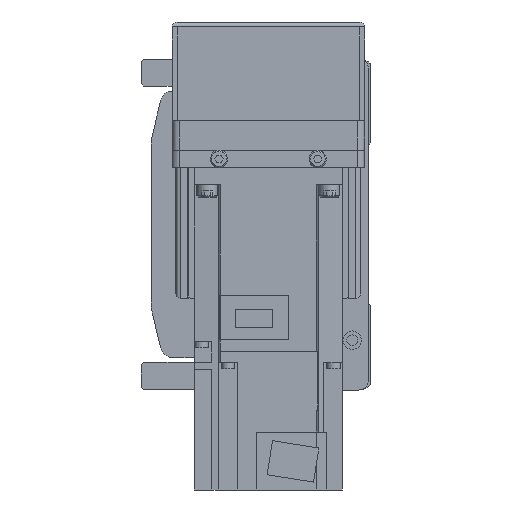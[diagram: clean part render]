
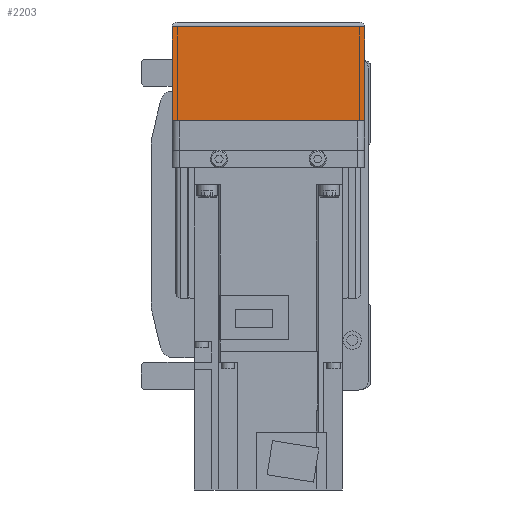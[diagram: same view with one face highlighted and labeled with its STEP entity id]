
A CAD part, left-side view. The second image highlights one B-rep face of the part: STEP entity #2203.
In plain terms, the highlighted planar face has unit normal (-1, 0, 0).
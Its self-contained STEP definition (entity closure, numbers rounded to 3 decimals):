
#2203 = ADVANCED_FACE( '', ( #4990 ), #4991, .F. );
#4990 = FACE_OUTER_BOUND( '', #8432, .T. );
#4991 = PLANE( '', #8433 );
#8432 = EDGE_LOOP( '', ( #14612, #14613, #14614, #14615 ) );
#8433 = AXIS2_PLACEMENT_3D( '', #14616, #14617, #14618 );
#14612 = ORIENTED_EDGE( '', *, *, #21756, .F. );
#14613 = ORIENTED_EDGE( '', *, *, #21757, .F. );
#14614 = ORIENTED_EDGE( '', *, *, #21758, .T. );
#14615 = ORIENTED_EDGE( '', *, *, #21759, .F. );
#14616 = CARTESIAN_POINT( '', ( -158., 36., 7. ) );
#14617 = DIRECTION( '', ( 1., 0., 0. ) );
#14618 = DIRECTION( '', ( 0., 0., -1. ) );
#21756 = EDGE_CURVE( '', #26794, #26795, #26796, .T. );
#21757 = EDGE_CURVE( '', #26797, #26794, #26798, .T. );
#21758 = EDGE_CURVE( '', #26797, #26799, #26800, .T. );
#21759 = EDGE_CURVE( '', #26795, #26799, #26801, .T. );
#26794 = VERTEX_POINT( '', #34260 );
#26795 = VERTEX_POINT( '', #34261 );
#26796 = LINE( '', #34262, #34263 );
#26797 = VERTEX_POINT( '', #34264 );
#26798 = LINE( '', #34265, #34266 );
#26799 = VERTEX_POINT( '', #34267 );
#26800 = LINE( '', #34268, #34269 );
#26801 = LINE( '', #34270, #34271 );
#34260 = CARTESIAN_POINT( '', ( -158., 39., -12.1 ) );
#34261 = CARTESIAN_POINT( '', ( -158., -39., -12.1 ) );
#34262 = CARTESIAN_POINT( '', ( -158., 50., -12.1 ) );
#34263 = VECTOR( '', #39224, 1000. );
#34264 = CARTESIAN_POINT( '', ( -158., 39., -50. ) );
#34265 = CARTESIAN_POINT( '', ( -158., 39., -50. ) );
#34266 = VECTOR( '', #39225, 1000. );
#34267 = CARTESIAN_POINT( '', ( -158., -39., -50. ) );
#34268 = CARTESIAN_POINT( '', ( -158., 40., -50. ) );
#34269 = VECTOR( '', #39226, 1000. );
#34270 = CARTESIAN_POINT( '', ( -158., -39., -12.1 ) );
#34271 = VECTOR( '', #39227, 1000. );
#39224 = DIRECTION( '', ( 0., -1., 0. ) );
#39225 = DIRECTION( '', ( 0., 0., 1. ) );
#39226 = DIRECTION( '', ( 0., -1., 0. ) );
#39227 = DIRECTION( '', ( 0., 0., -1. ) );
